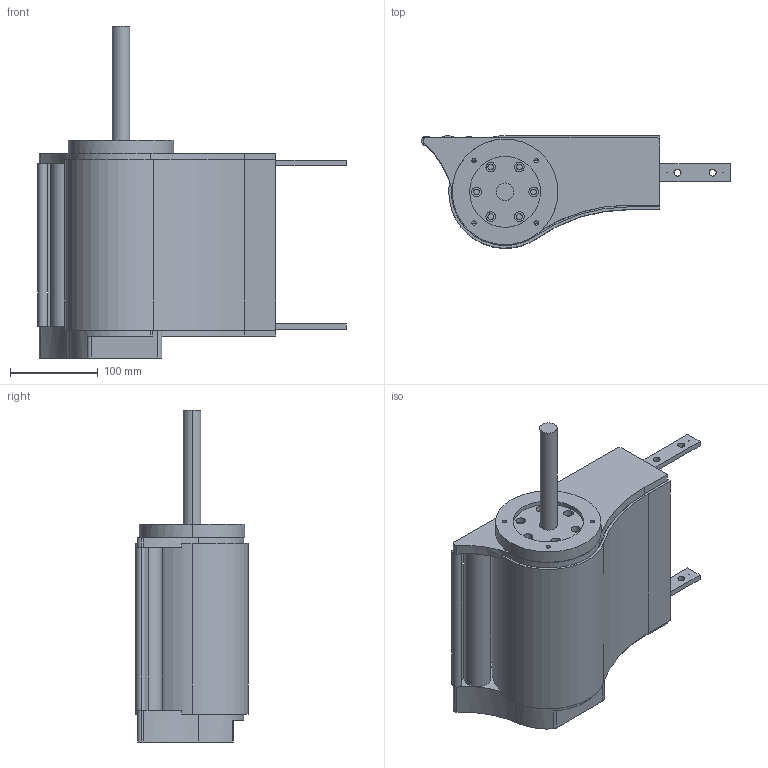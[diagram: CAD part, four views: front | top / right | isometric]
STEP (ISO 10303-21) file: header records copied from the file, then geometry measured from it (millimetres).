
FILE_DESCRIPTION (( 'STEP AP214' ), '1' );
FILE_NAME ('880120-001 CS200SL Aangedr. overgang type A links.STEP', '2015-05-06T13:33:01', ( 'Beheerder' ), ( '' ), 'SwSTEP 2.0', 'SolidWorks 2012', '' );
FILE_SCHEMA (( 'AUTOMOTIVE_DESIGN' ));
Length unit declared in the file: millimetre
Products named in the file (1): 880120-001 CS200SL Aangedr. overgang type A links
Bounding box: 350.75 x 127.87 x 377.4 mm (x, y, z)
Volume: 5609581 mm3; surface area: 271215.9 mm2
Topology: 1 solids, 1 shells, 160 faces, 434 edges, 278 vertices
Faces by surface type: cylinder 82, plane 70, cone 8
Entity records: 5216 total; most frequent: DIRECTION 940, CARTESIAN_POINT 865, ORIENTED_EDGE 852, EDGE_CURVE 426, AXIS2_PLACEMENT_3D 353, VERTEX_POINT 278, VECTOR 234, LINE 234
